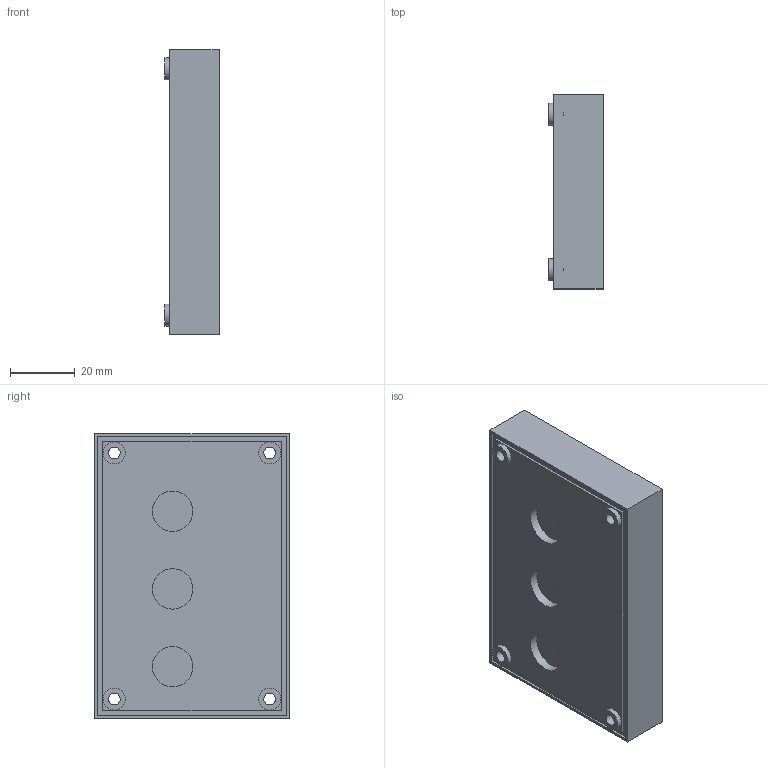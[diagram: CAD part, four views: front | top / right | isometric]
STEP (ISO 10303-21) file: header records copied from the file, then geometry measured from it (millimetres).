
FILE_DESCRIPTION(('FreeCAD Model'),'2;1');
FILE_NAME('Open CASCADE Shape Model','2026-09-11T17:58:35',( '' ),( '' ),'Open CASCADE STEP processor 7.8','FreeCAD','Unknown');
FILE_SCHEMA(('AUTOMOTIVE_DESIGN { 1 0 10303 214 1 1 1 1 }'));
Length unit declared in the file: millimetre
Products named in the file (1): Open CASCADE STEP translator 7.8 3
Bounding box: 16.7 x 60 x 88 mm (x, y, z)
Volume: 24751.5 mm3; surface area: 19772.9 mm2
Topology: 1 solids, 1 shells, 59 faces, 142 edges, 96 vertices
Faces by surface type: plane 40, cylinder 19
Full cylindrical faces by diameter (mm): 3.6 x4, 4 x2, 6.8 x4, 11.4 x3, 12.5 x3
Entity records: 1759 total; most frequent: DIRECTION 307, CARTESIAN_POINT 302, ORIENTED_EDGE 284, EDGE_CURVE 142, AXIS2_PLACEMENT_3D 109, VERTEX_POINT 96, LINE 89, VECTOR 89
